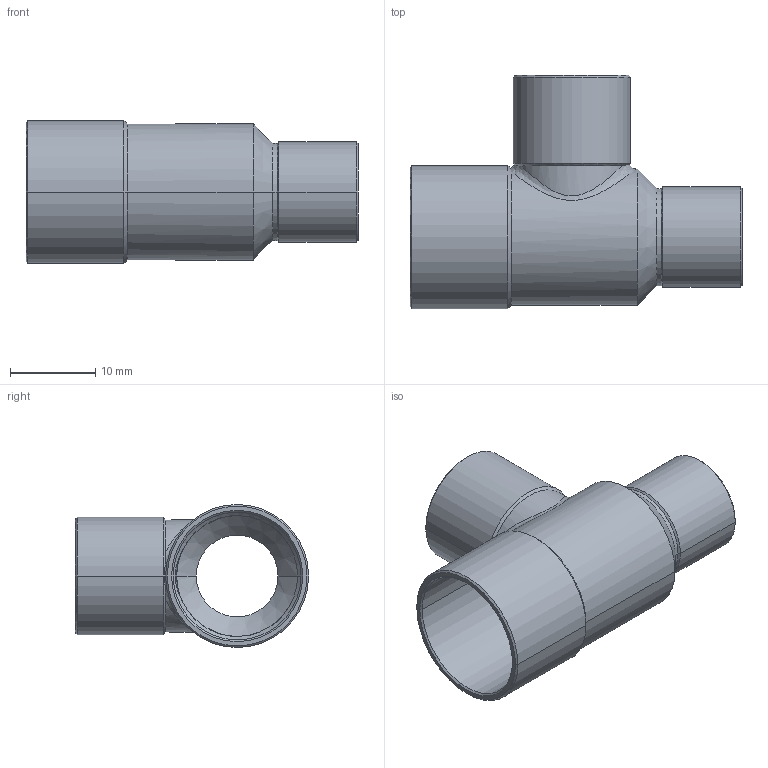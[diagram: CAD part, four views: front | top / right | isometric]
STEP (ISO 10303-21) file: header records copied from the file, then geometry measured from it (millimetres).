
FILE_DESCRIPTION((''),'2;1');
FILE_NAME('P:\Bouwmaten\z-maattekeningen 3D\5000\5130\5130151210.stp','2005-10-26T11:52:45',('Kris'),(''),'Autodesk Inventor 8','Autodesk Inventor 8','');
FILE_SCHEMA(('AUTOMOTIVE_DESIGN { 1 0 10303 214 1 1 1 1 }'));
Length unit declared in the file: millimetre
Products named in the file (1): 5130151210
Bounding box: 39 x 27.4 x 16.8 mm (x, y, z)
Volume: 1922.2 mm3; surface area: 4397.5 mm2
Topology: 1 solids, 1 shells, 59 faces, 134 edges, 76 vertices
Faces by surface type: cone 28, cylinder 26, plane 3, bspline 2
Entity records: 2228 total; most frequent: CARTESIAN_POINT 890, DIRECTION 282, ORIENTED_EDGE 268, EDGE_CURVE 134, AXIS2_PLACEMENT_3D 117, VERTEX_POINT 76, EDGE_LOOP 62, CIRCLE 59
